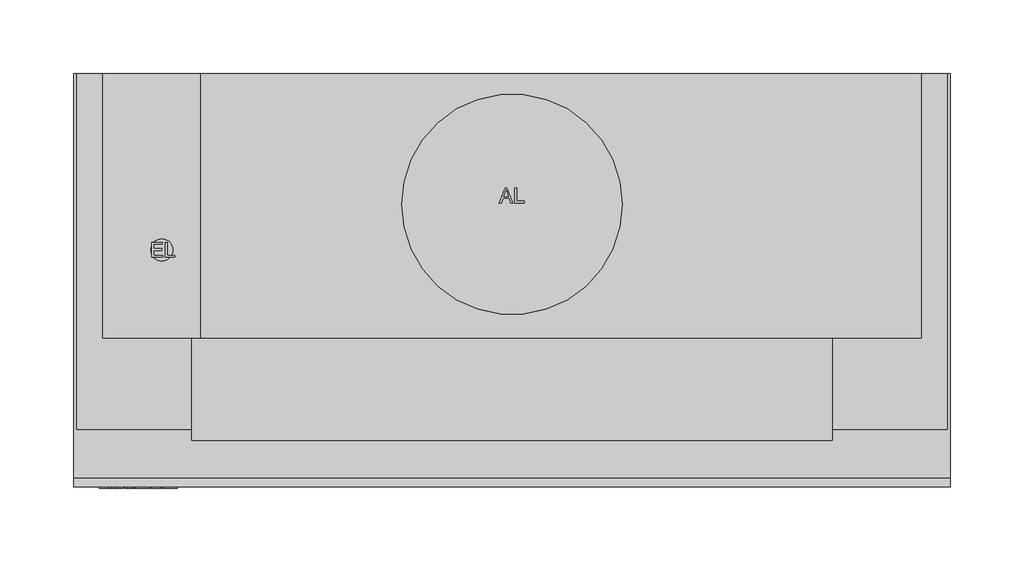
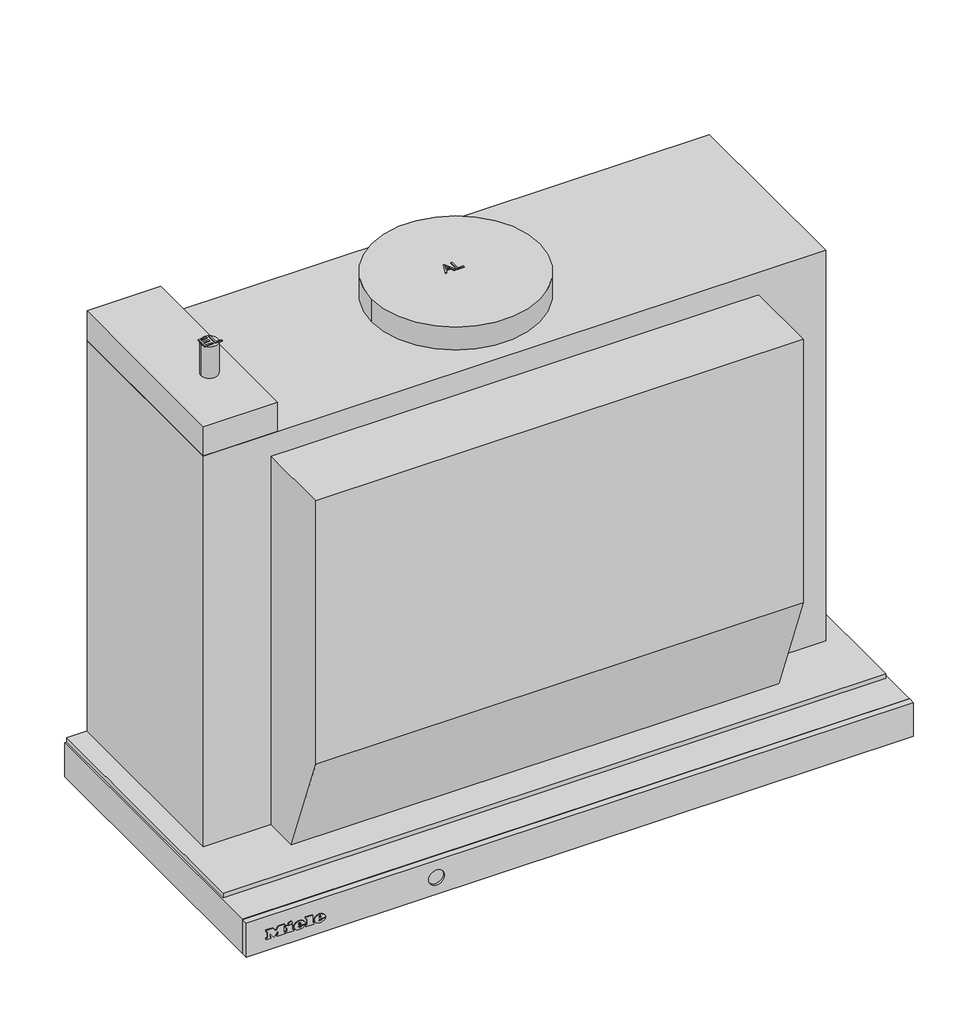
# Not in any storey: 1 proxy.
"""IFC4 building model written with IfcOpenShell, lengths in millimetres."""

import ifcopenshell
import ifcopenshell.guid

model = None  # the IFC model being written
_history = None  # IfcOwnerHistory: only IFC2X3 demands one
_inside = {}  # id of a spatial element -> (the spatial element, [elements in it])
_under = {}  # id of a project, library or spatial element -> (it, [spatial elements below it])
_declared = {}  # id of a project -> (the project, [libraries it declares])
_typed = {}  # id of a type object -> (the type object, [elements of that type])
_made_of = {}  # id of a material, layer set ... -> (it, [elements and type objects made of it])


def new_model(schema):
    """Start an empty IFC model of exactly this schema.

    Asked for "IFC4X3", IfcOpenShell would pick the latest addendum, in which some entities
    have other attributes; the version numbers below select the first issue.
    IFC2X3 requires an IfcOwnerHistory on every rooted entity: one is made here for all.
    """
    global model, _history
    if schema == "IFC4X3":
        model = ifcopenshell.file(schema_version=(4, 3, 0, 0))
    else:
        model = ifcopenshell.file(schema=schema)
    _inside.clear()
    _under.clear()
    _declared.clear()
    _typed.clear()
    _made_of.clear()
    _history = None
    if model.schema == "IFC2X3":
        org = make("IfcOrganization", Name="unknown")
        user = make(
            "IfcPersonAndOrganization",
            ThePerson=make("IfcPerson", FamilyName="unknown"),
            TheOrganization=org,
        )
        app = make(
            "IfcApplication",
            ApplicationDeveloper=org,
            Version="unknown",
            ApplicationFullName="unknown",
            ApplicationIdentifier="unknown",
        )
        _history = make(
            "IfcOwnerHistory",
            OwningUser=user,
            OwningApplication=app,
            ChangeAction="ADDED",
            CreationDate=0,
        )
    return model


def make(cls, **values):
    """One entity of the class cls with the attributes given. An attribute that is None is left unset."""
    return model.create_entity(
        cls, **{name: value for name, value in values.items() if value is not None}
    )


def rooted(cls, **values):
    """An entity with a GlobalId (a new one), such as an element, a storey or a relation."""
    return make(cls, GlobalId=ifcopenshell.guid.new(), OwnerHistory=_history, **values)


def si_unit(unit_type, name, prefix=None):
    """IfcSIUnit, for example si_unit("LENGTHUNIT", "METRE", prefix="MILLI")."""
    return make("IfcSIUnit", UnitType=unit_type, Prefix=prefix, Name=name)


def assignment(units):
    """IfcUnitAssignment: the units of a project."""
    return None if units is None else make("IfcUnitAssignment", Units=units)


def point(xyz):
    """IfcCartesianPoint."""
    return None if xyz is None else make("IfcCartesianPoint", Coordinates=xyz)


def direction(xyz):
    """IfcDirection."""
    return None if xyz is None else make("IfcDirection", DirectionRatios=xyz)


def frame(location, z_axis=None, x_axis=None):
    """IfcAxis2Placement3D, a coordinate frame: its origin and axes. An axis left out is left unset."""
    return make(
        "IfcAxis2Placement3D",
        Location=point(location),
        Axis=direction(z_axis),
        RefDirection=direction(x_axis),
    )


def frame_2d(location, x_axis=None):
    """IfcAxis2Placement2D, a coordinate frame in the plane: its origin and x axis."""
    return make(
        "IfcAxis2Placement2D", Location=point(location), RefDirection=direction(x_axis)
    )


def origin():
    """The frame at (0, 0, 0) with its axes left unset."""
    return frame((0.0, 0.0, 0.0))


def origin_with_axes():
    """The frame at (0, 0, 0) with the z axis (0, 0, 1) and the x axis (1, 0, 0) written out."""
    return frame((0.0, 0.0, 0.0), z_axis=(0.0, 0.0, 1.0), x_axis=(1.0, 0.0, 0.0))


def place(relative_to, where):
    """IfcLocalPlacement: puts the frame where relative to a parent placement (None: the world)."""
    return make(
        "IfcLocalPlacement", PlacementRelTo=relative_to, RelativePlacement=where
    )


def context(
    kind, dimensions, precision=None, world=None, true_north=None, identifier=None
):
    """IfcGeometricRepresentationContext, for example the 3D "Model" context."""
    return make(
        "IfcGeometricRepresentationContext",
        ContextIdentifier=identifier,
        ContextType=kind,
        CoordinateSpaceDimension=dimensions,
        Precision=precision,
        WorldCoordinateSystem=world,
        TrueNorth=true_north,
    )


def project(units=None, contexts=None):
    """IfcProject with its units and contexts."""
    return rooted(
        "IfcProject",
        Name="project",
        RepresentationContexts=contexts,
        UnitsInContext=assignment(units),
    )


def spatial(cls, under=None, at=None, **own):
    """A site, building, storey or space (cls), placed at a placement, below another one or the project."""
    s = rooted(cls, ObjectPlacement=at, **own)
    if under is not None:
        _under.setdefault(under.id(), (under, []))[1].append(s)
    return s


def polyline(points):
    """IfcPolyline through the points."""
    return make("IfcPolyline", Points=[point(p) for p in points])


def circle_curve(where, radius):
    """IfcCircle in the frame where."""
    return make("IfcCircle", Position=where, Radius=radius)


def ellipse_curve(where, semi_axis1, semi_axis2):
    """IfcEllipse in the frame where."""
    return make(
        "IfcEllipse", Position=where, SemiAxis1=semi_axis1, SemiAxis2=semi_axis2
    )


def trimmed(basis, trim1, trim2, sense, master):
    """IfcTrimmedCurve: the piece of a basis curve between two trims."""
    return make(
        "IfcTrimmedCurve",
        BasisCurve=basis,
        Trim1=trim1,
        Trim2=trim2,
        SenseAgreement=sense,
        MasterRepresentation=master,
    )


def segment(curve, same_sense, transition):
    """IfcCompositeCurveSegment."""
    return make(
        "IfcCompositeCurveSegment",
        Transition=transition,
        SameSense=same_sense,
        ParentCurve=curve,
    )


def composite_curve(segments, self_intersect=None):
    """IfcCompositeCurve: segments joined end to end."""
    return make("IfcCompositeCurve", Segments=segments, SelfIntersect=self_intersect)


def outline(outer, holes=None, kind="AREA"):
    """IfcArbitraryClosedProfileDef: a profile drawn as a closed curve; with holes, ...WithVoids."""
    if holes is None:
        return make("IfcArbitraryClosedProfileDef", ProfileType=kind, OuterCurve=outer)
    return make(
        "IfcArbitraryProfileDefWithVoids",
        ProfileType=kind,
        OuterCurve=outer,
        InnerCurves=holes,
    )


def extrude(swept, where, along, depth):
    """IfcExtrudedAreaSolid: the profile swept, set in the frame where, extruded along a direction by depth."""
    return make(
        "IfcExtrudedAreaSolid",
        SweptArea=swept,
        Position=where,
        ExtrudedDirection=direction(along),
        Depth=depth,
    )


def faces_of(points, faces, orient=None, outer=None):
    """IfcFace entities. A face is a list of loops; a loop is a list of indices into points, from 0.

    orient and outer hold one flag for each loop. By default every Orientation is true, the
    first loop of a face is its IfcFaceOuterBound and the others are IfcFaceBound.
    """
    made = []
    for i, loops in enumerate(faces):
        bounds = []
        for j, loop in enumerate(loops):
            is_outer = j == 0 if outer is None else outer[i][j]
            bounds.append(
                make(
                    "IfcFaceOuterBound" if is_outer else "IfcFaceBound",
                    Bound=make("IfcPolyLoop", Polygon=[points[k] for k in loop]),
                    Orientation=True if orient is None else orient[i][j],
                )
            )
        made.append(make("IfcFace", Bounds=bounds))
    return made


def faceted_brep(points, faces, orient=None, outer=None, voids=None):
    """IfcFacetedBrep: a solid bounded by flat faces; with voids (closed shells), ...WithVoids."""
    shared = [point(p) for p in points]
    hull = make("IfcClosedShell", CfsFaces=faces_of(shared, faces, orient, outer))
    if voids is None:
        return make("IfcFacetedBrep", Outer=hull)
    return make(
        "IfcFacetedBrepWithVoids",
        Outer=hull,
        Voids=[
            make(cls, CfsFaces=faces_of(shared, fs, o, b)) for cls, fs, o, b in voids
        ],
    )


def shape(context_of_items, identifier, shape_type, items):
    """IfcShapeRepresentation: the items that make up one representation, for example the "Body"."""
    return make(
        "IfcShapeRepresentation",
        ContextOfItems=context_of_items,
        RepresentationIdentifier=identifier,
        RepresentationType=shape_type,
        Items=items,
    )


def source(mapping_origin, context_of_items, identifier, shape_type, items):
    """IfcRepresentationMap: a shape defined once, which mapped items show again and again."""
    return make(
        "IfcRepresentationMap",
        MappingOrigin=mapping_origin,
        MappedRepresentation=shape(context_of_items, identifier, shape_type, items),
    )


def transform(
    local_origin,
    x_axis=None,
    y_axis=None,
    z_axis=None,
    scale=None,
    scale2=None,
    scale3=None,
    uniform=True,
):
    """IfcCartesianTransformationOperator3D, or its non-uniform kind. x_axis, y_axis, z_axis: its Axis1, 2, 3."""
    if uniform:
        return make(
            "IfcCartesianTransformationOperator3D",
            Axis1=direction(x_axis),
            Axis2=direction(y_axis),
            LocalOrigin=point(local_origin),
            Scale=scale,
            Axis3=direction(z_axis),
        )
    return make(
        "IfcCartesianTransformationOperator3DnonUniform",
        Axis1=direction(x_axis),
        Axis2=direction(y_axis),
        LocalOrigin=point(local_origin),
        Scale=scale,
        Axis3=direction(z_axis),
        Scale2=scale2,
        Scale3=scale3,
    )


def mapped(mapping_source, mapping_target):
    """IfcMappedItem: shows the shape of a source again, moved by a transform."""
    return make(
        "IfcMappedItem", MappingSource=mapping_source, MappingTarget=mapping_target
    )


def made_of(thing, what):
    """Note that an element or type object is made of a material, layer set ...; save() writes the relation."""
    if what is not None:
        _made_of.setdefault(what.id(), (what, []))[1].append(thing)
    return thing


def element(
    cls,
    number,
    at=None,
    inside=None,
    cuts=None,
    type_object=None,
    material=None,
    context=None,
    identifier="Body",
    shape_type=None,
    held_by="IfcProductDefinitionShape",
    body=None,
    shapes=None,
    **own,
):
    """One element of the class cls, such as IfcWall. Its Tag is "e" and its number.

    at: its placement. inside: the storey or other place that contains it. cuts: it is an
    opening in that element (IfcRelVoidsElement). A single representation is given by context,
    identifier, shape_type and body (its items); several are given by shapes. held_by: the class
    of the entity that holds the representations. save() writes the other relations.
    """
    e = rooted(cls, Tag="e%d" % number, ObjectPlacement=at, **own)
    if body is not None:
        shapes = [shape(context, identifier, shape_type, body)]
    if shapes is not None:
        e.Representation = make(held_by, Representations=shapes)
    if inside is not None:
        _inside.setdefault(inside.id(), (inside, []))[1].append(e)
    if cuts is not None:
        rooted(
            "IfcRelVoidsElement", RelatingBuildingElement=cuts, RelatedOpeningElement=e
        )
    if type_object is not None:
        _typed.setdefault(type_object.id(), (type_object, []))[1].append(e)
    return made_of(e, material)


def aggregate(whole, parts):
    """IfcRelAggregates: a whole, such as a stair, and the parts it consists of."""
    return rooted("IfcRelAggregates", RelatingObject=whole, RelatedObjects=parts)


def save(model, path):
    """Write the relations noted so far, then the file.

    IfcRelAggregates (storeys below a building ...), IfcRelContainedInSpatialStructure (elements
    in a storey), IfcRelDefinesByType, IfcRelAssociatesMaterial and IfcRelDeclares: one each for
    every whole, place, type object, material and project.
    """
    for whole, parts in _under.values():
        aggregate(whole, parts)
    for where, things in _inside.values():
        rooted(
            "IfcRelContainedInSpatialStructure",
            RelatedElements=things,
            RelatingStructure=where,
        )
    for kind, things in _typed.values():
        rooted("IfcRelDefinesByType", RelatedObjects=things, RelatingType=kind)
    for what, things in _made_of.values():
        rooted("IfcRelAssociatesMaterial", RelatedObjects=things, RelatingMaterial=what)
    for by, libraries in _declared.values():
        rooted("IfcRelDeclares", RelatingContext=by, RelatedDefinitions=libraries)
    model.write(path)


def plane_surface(at):
    """IfcPlane: the flat surface through the origin of the frame at, square to its z axis."""
    return make("IfcPlane", Position=at)


def cylinder_surface(at, radius):
    """IfcCylindricalSurface: all points at the distance radius from the z axis of the frame at."""
    return make("IfcCylindricalSurface", Position=at, Radius=radius)


def revolved_surface(curve, axis_point, axis_direction):
    """IfcSurfaceOfRevolution: the curve turned about the line through axis_point along axis_direction."""
    return make(
        "IfcSurfaceOfRevolution",
        SweptCurve=make("IfcArbitraryOpenProfileDef", ProfileType="CURVE", Curve=curve),
        AxisPosition=make("IfcAxis1Placement", Location=point(axis_point), Axis=direction(axis_direction)),
    )


def extruded_surface(curve, direction_of_extrusion, depth):
    """IfcSurfaceOfLinearExtrusion: the curve pushed along a direction by depth."""
    return make(
        "IfcSurfaceOfLinearExtrusion",
        SweptCurve=make("IfcArbitraryOpenProfileDef", ProfileType="CURVE", Curve=curve),
        ExtrudedDirection=direction(direction_of_extrusion),
        Depth=depth,
    )


def advanced_brep(points, edges, surfaces, faces):
    """IfcAdvancedBrep: a solid bounded by faces that lie on surfaces and meet in shared edges.

    An edge is (start, end): straight between two places in points (the first is 0);
    or (start, end, curve); or (start, end, curve, False) where it runs against its curve.
    A face is (place in surfaces, loops), or (place, loops, False) where it looks against
    its surface's normal. A loop lists edges by number (the first is 1), with a minus sign
    where the edge is run from its end to its start. The first loop is the outer one.
    """
    corners = [point(p) for p in points]
    vertices = [make("IfcVertexPoint", VertexGeometry=c) for c in corners]
    made = []
    for start, end, *more in edges:
        made.append(
            make(
                "IfcEdgeCurve",
                EdgeStart=vertices[start],
                EdgeEnd=vertices[end],
                EdgeGeometry=more[0] if more else make("IfcPolyline", Points=[corners[start], corners[end]]),
                SameSense=more[1] if len(more) > 1 else True,
            )
        )
    hull = []
    for where, loops, *sense in faces:
        bounds = []
        for j, loop in enumerate(loops):
            ring = [make("IfcOrientedEdge", EdgeElement=made[abs(k) - 1], Orientation=k > 0) for k in loop]
            bounds.append(
                make(
                    "IfcFaceOuterBound" if j == 0 else "IfcFaceBound",
                    Bound=make("IfcEdgeLoop", EdgeList=ring),
                    Orientation=True,
                )
            )
        hull.append(make("IfcAdvancedFace", Bounds=bounds, FaceSurface=surfaces[where], SameSense=sense[0] if sense else True))
    return make("IfcAdvancedBrep", Outer=make("IfcClosedShell", CfsFaces=hull))


def specialty_equipment_1e5db910(model_context):
    return source(origin(), model_context, "Body", "SolidModel", [
        advanced_brep(
        [(-233.4590019, -282.1878927, -18.7681017), (-233.4590019, -282.1878927, -17.8894017), (-227.6387019, -282.1878927, -17.8894017), (-237.7655019, -282.1878927, -17.8894017), (-235.3730019, -282.1878927, -20.8300017), (-227.7866019, -282.1878927, -18.7681017), (-230.4140019, -282.1878927, -18.7681017), (-232.4846019, -282.1878927, -19.7425017), (-233.4590019, -282.1878927, -16.7758017), (-233.4590019, -282.1878927, -15.8275017), (-231.9713019, -282.1878927, -15.8275017), (-231.9713019, -282.1878927, -16.7758017), (-233.4590019, -281.1878927, -18.7681017), (-232.4846019, -281.1878927, -19.7425017), (-230.4140019, -281.1878927, -18.7681017), (-227.7866019, -281.1878927, -18.7681017), (-235.3730019, -281.1878927, -20.8300017), (-237.7655019, -281.1878927, -17.8894017), (-227.6387019, -281.1878927, -17.8894017), (-233.4590019, -281.1878927, -17.8894017), (-233.4590019, -281.1878927, -16.7758017), (-231.9713019, -281.1878927, -16.7758017), (-231.9713019, -281.1878927, -15.8275017), (-233.4590019, -281.1878927, -15.8275017)],
        [
            (0, 1),
            (1, 2),
            (2, 3, ellipse_curve(frame((-232.7021019, -282.1878927, -17.8894017), z_axis=(0.0, -1.0, 0.0), x_axis=(-1.0, 0.0, 0.0)), 5.0634, 4.1847)),
            (3, 4, circle_curve(frame((-234.3985544, -282.1878927, -17.5936017), z_axis=(0.0, -1.0, 0.0), x_axis=(0.0, 0.0, -1.0)), 3.3799161)),
            (4, 5, circle_curve(frame((-232.8034638, -282.1878927, -15.2968017), z_axis=(0.0, -1.0, 0.0), x_axis=(0.0, 0.0, -1.0)), 6.1007236)),
            (5, 6),
            (6, 7, circle_curve(frame((-232.0593254, -282.1878927, -17.9590017), z_axis=(0.0, 1.0, 0.0), x_axis=(0.0, 0.0, -1.0)), 1.8335027)),
            (7, 0, circle_curve(frame((-232.4846019, -282.1878927, -18.7681017), z_axis=(0.0, 1.0, 0.0), x_axis=(0.0, 0.0, -1.0)), 0.9744)),
            (8, 9),
            (9, 10, circle_curve(frame((-232.7151519, -282.1878927, -15.8275017), z_axis=(0.0, 1.0, 0.0), x_axis=(0.0, 0.0, -1.0)), 0.74385)),
            (10, 11),
            (11, 8),
            (12, 13, circle_curve(frame((-232.4846019, -281.1878927, -18.7681017), z_axis=(0.0, -1.0, 0.0), x_axis=(0.0, 0.0, -1.0)), 0.9744)),
            (13, 14, circle_curve(frame((-232.0593254, -281.1878927, -17.9590017), z_axis=(0.0, -1.0, 0.0), x_axis=(0.0, 0.0, -1.0)), 1.8335027)),
            (14, 15),
            (15, 16, circle_curve(frame((-232.8034638, -281.1878927, -15.2968017), z_axis=(0.0, 1.0, 0.0), x_axis=(0.0, 0.0, -1.0)), 6.1007236)),
            (16, 17, circle_curve(frame((-234.3985544, -281.1878927, -17.5936017), z_axis=(0.0, 1.0, 0.0), x_axis=(0.0, 0.0, -1.0)), 3.3799161)),
            (17, 18, ellipse_curve(frame((-232.7021019, -281.1878927, -17.8894017), z_axis=(0.0, 1.0, 0.0), x_axis=(-1.0, 0.0, 0.0)), 5.0634, 4.1847)),
            (18, 19),
            (19, 12),
            (20, 21),
            (21, 22),
            (22, 23, circle_curve(frame((-232.7151519, -281.1878927, -15.8275017), z_axis=(0.0, -1.0, 0.0), x_axis=(0.0, 0.0, -1.0)), 0.74385)),
            (23, 20),
            (0, 12),
            (19, 1),
            (18, 2),
            (5, 15),
            (14, 6),
            (17, 3),
            (13, 7),
            (16, 4),
            (8, 20),
            (23, 9),
            (22, 10),
            (21, 11),
        ],
        [
            plane_surface(frame((-233.4590019, -282.1878927, -17.8894017), z_axis=(0.0, -1.0, 0.0), x_axis=(0.0, 0.0, 1.0))),
            plane_surface(frame((-233.4590019, -281.1878927, -17.8894017), z_axis=(0.0, 1.0, 0.0), x_axis=(0.0, 0.0, -1.0))),
            plane_surface(frame((-233.4590019, -282.1878927, -18.7681017), z_axis=(1.0, 0.0, 0.0), x_axis=(0.0, 1.0, 0.0))),
            plane_surface(frame((-233.4590019, -282.1878927, -17.8894017), z_axis=(0.0, 0.0, -1.0), x_axis=(0.0, 1.0, 0.0))),
            plane_surface(frame((-227.7866019, -282.1878927, -18.7681017), z_axis=(0.0, 0.0, 1.0), x_axis=(0.0, 1.0, 0.0))),
            extruded_surface(trimmed(ellipse_curve(frame((-232.7021019, -280.1878927, -17.8894017), z_axis=(0.0, -1.0, 0.0), x_axis=(-1.0, 0.0, 0.0)), 5.0634, 4.1847), [point((-227.6387019, -280.1878927, -17.8894017))], [point((-237.7655019, -280.1878927, -17.8894017))], True, "CARTESIAN"), (0.0, -1.0, 0.0), 1.0),
            revolved_surface(polyline([(-232.0593254, -281.1878927, -19.792504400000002), (-232.0593254, -282.1878927, -19.792504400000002)]), (-232.0593254, -281.1878927, -17.9590017), (0.0, 1.0, 0.0)),
            revolved_surface(polyline([(-232.4846019, -281.1878927, -19.7425017), (-232.4846019, -282.1878927, -19.7425017)]), (-232.4846019, -281.1878927, -18.7681017), (0.0, 1.0, 0.0)),
            cylinder_surface(frame((-234.3985544, -281.1878927, -17.5936017), z_axis=(0.0, -1.0, 0.0), x_axis=(0.0, 0.0, -1.0)), 3.3799161),
            cylinder_surface(frame((-232.8034638, -281.1878927, -15.2968017), z_axis=(0.0, -1.0, 0.0), x_axis=(0.0, 0.0, -1.0)), 6.1007236),
            plane_surface(frame((-233.4590019, -282.1878927, -16.7758017), z_axis=(1.0, 0.0, 0.0), x_axis=(0.0, 1.0, 0.0))),
            revolved_surface(polyline([(-232.7151519, -281.1878927, -16.571351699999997), (-232.7151519, -282.1878927, -16.571351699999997)]), (-232.7151519, -281.1878927, -15.8275017), (0.0, 1.0, 0.0)),
            plane_surface(frame((-231.9713019, -282.1878927, -15.8275017), z_axis=(-1.0, 0.0, 0.0), x_axis=(0.0, 1.0, 0.0))),
            plane_surface(frame((-231.9713019, -282.1878927, -16.7758017), z_axis=(0.0, 0.0, 1.0), x_axis=(0.0, 1.0, 0.0))),
        ],
        [
            (0, [[1, 2, 3, 4, 5, 6, 7, 8], [9, 10, 11, 12]]),
            (1, [[13, 14, 15, 16, 17, 18, 19, 20], [21, 22, 23, 24]]),
            (2, [[-1, 25, -20, 26]]),
            (3, [[-2, -26, -19, 27]]),
            (4, [[-6, 28, -15, 29]]),
            (5, [[-3, -27, -18, 30]]),
            (6, [[-7, -29, -14, 31]]),
            (7, [[-8, -31, -13, -25]]),
            (8, [[-4, -30, -17, 32]]),
            (9, [[-5, -32, -16, -28]]),
            (10, [[-9, 33, -24, 34]]),
            (11, [[-10, -34, -23, 35]]),
            (12, [[-11, -35, -22, 36]]),
            (13, [[-12, -36, -21, -33]]),
        ],
    ),
        advanced_brep(
        [(-251.6159019, -282.1878927, -18.7681017), (-251.6159019, -282.1878927, -17.8894017), (-245.7956019, -282.1878927, -17.8894017), (-255.9224019, -282.1878927, -17.8894017), (-253.5299019, -282.1878927, -20.8300017), (-245.9435019, -282.1878927, -18.7681017), (-248.5709019, -282.1878927, -18.7681017), (-250.6415019, -282.1878927, -19.7425017), (-251.6159019, -282.1878927, -16.7758017), (-251.6159019, -282.1878927, -15.8275017), (-250.1282019, -282.1878927, -15.8275017), (-250.1282019, -282.1878927, -16.7758017), (-251.6159019, -281.1878927, -18.7681017), (-250.6415019, -281.1878927, -19.7425017), (-248.5709019, -281.1878927, -18.7681017), (-245.9435019, -281.1878927, -18.7681017), (-253.5299019, -281.1878927, -20.8300017), (-255.9224019, -281.1878927, -17.8894017), (-245.7956019, -281.1878927, -17.8894017), (-251.6159019, -281.1878927, -17.8894017), (-251.6159019, -281.1878927, -16.7758017), (-250.1282019, -281.1878927, -16.7758017), (-250.1282019, -281.1878927, -15.8275017), (-251.6159019, -281.1878927, -15.8275017)],
        [
            (0, 1),
            (1, 2),
            (2, 3, ellipse_curve(frame((-250.8590019, -282.1878927, -17.8894017), z_axis=(0.0, -1.0, 0.0), x_axis=(-1.0, 0.0, 0.0)), 5.0634, 4.1847)),
            (3, 4, circle_curve(frame((-252.5554544, -282.1878927, -17.5936017), z_axis=(0.0, -1.0, 0.0), x_axis=(0.0, 0.0, -1.0)), 3.3799161)),
            (4, 5, circle_curve(frame((-250.9603638, -282.1878927, -15.2968017), z_axis=(0.0, -1.0, 0.0), x_axis=(0.0, 0.0, -1.0)), 6.1007236)),
            (5, 6),
            (6, 7, circle_curve(frame((-250.2162254, -282.1878927, -17.9590017), z_axis=(0.0, 1.0, 0.0), x_axis=(0.0, 0.0, -1.0)), 1.8335027)),
            (7, 0, circle_curve(frame((-250.6415019, -282.1878927, -18.7681017), z_axis=(0.0, 1.0, 0.0), x_axis=(0.0, 0.0, -1.0)), 0.9744)),
            (8, 9),
            (9, 10, circle_curve(frame((-250.8720519, -282.1878927, -15.8275017), z_axis=(0.0, 1.0, 0.0), x_axis=(0.0, 0.0, -1.0)), 0.74385)),
            (10, 11),
            (11, 8),
            (12, 13, circle_curve(frame((-250.6415019, -281.1878927, -18.7681017), z_axis=(0.0, -1.0, 0.0), x_axis=(0.0, 0.0, -1.0)), 0.9744)),
            (13, 14, circle_curve(frame((-250.2162254, -281.1878927, -17.9590017), z_axis=(0.0, -1.0, 0.0), x_axis=(0.0, 0.0, -1.0)), 1.8335027)),
            (14, 15),
            (15, 16, circle_curve(frame((-250.9603638, -281.1878927, -15.2968017), z_axis=(0.0, 1.0, 0.0), x_axis=(0.0, 0.0, -1.0)), 6.1007236)),
            (16, 17, circle_curve(frame((-252.5554544, -281.1878927, -17.5936017), z_axis=(0.0, 1.0, 0.0), x_axis=(0.0, 0.0, -1.0)), 3.3799161)),
            (17, 18, ellipse_curve(frame((-250.8590019, -281.1878927, -17.8894017), z_axis=(0.0, 1.0, 0.0), x_axis=(-1.0, 0.0, 0.0)), 5.0634, 4.1847)),
            (18, 19),
            (19, 12),
            (20, 21),
            (21, 22),
            (22, 23, circle_curve(frame((-250.8720519, -281.1878927, -15.8275017), z_axis=(0.0, -1.0, 0.0), x_axis=(0.0, 0.0, -1.0)), 0.74385)),
            (23, 20),
            (0, 12),
            (19, 1),
            (18, 2),
            (5, 15),
            (14, 6),
            (17, 3),
            (13, 7),
            (16, 4),
            (8, 20),
            (23, 9),
            (22, 10),
            (21, 11),
        ],
        [
            plane_surface(frame((-251.6159019, -282.1878927, -17.8894017), z_axis=(0.0, -1.0, 0.0), x_axis=(0.0, 0.0, 1.0))),
            plane_surface(frame((-251.6159019, -281.1878927, -17.8894017), z_axis=(0.0, 1.0, 0.0), x_axis=(0.0, 0.0, -1.0))),
            plane_surface(frame((-251.6159019, -282.1878927, -18.7681017), z_axis=(1.0, 0.0, 0.0), x_axis=(0.0, 1.0, 0.0))),
            plane_surface(frame((-251.6159019, -282.1878927, -17.8894017), z_axis=(0.0, 0.0, -1.0), x_axis=(0.0, 1.0, 0.0))),
            plane_surface(frame((-245.9435019, -282.1878927, -18.7681017), z_axis=(0.0, 0.0, 1.0), x_axis=(0.0, 1.0, 0.0))),
            extruded_surface(trimmed(ellipse_curve(frame((-250.8590019, -280.1878927, -17.8894017), z_axis=(0.0, -1.0, 0.0), x_axis=(-1.0, 0.0, 0.0)), 5.0634, 4.1847), [point((-245.7956019, -280.1878927, -17.8894017))], [point((-255.9224019, -280.1878927, -17.8894017))], True, "CARTESIAN"), (0.0, -1.0, 0.0), 1.0),
            revolved_surface(polyline([(-250.2162254, -281.1878927, -19.792504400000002), (-250.2162254, -282.1878927, -19.792504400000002)]), (-250.2162254, -281.1878927, -17.9590017), (0.0, 1.0, 0.0)),
            revolved_surface(polyline([(-250.6415019, -281.1878927, -19.7425017), (-250.6415019, -282.1878927, -19.7425017)]), (-250.6415019, -281.1878927, -18.7681017), (0.0, 1.0, 0.0)),
            cylinder_surface(frame((-252.5554544, -281.1878927, -17.5936017), z_axis=(0.0, -1.0, 0.0), x_axis=(0.0, 0.0, -1.0)), 3.3799161),
            cylinder_surface(frame((-250.9603638, -281.1878927, -15.2968017), z_axis=(0.0, -1.0, 0.0), x_axis=(0.0, 0.0, -1.0)), 6.1007236),
            plane_surface(frame((-251.6159019, -282.1878927, -16.7758017), z_axis=(1.0, 0.0, 0.0), x_axis=(0.0, 1.0, 0.0))),
            revolved_surface(polyline([(-250.8720519, -281.1878927, -16.571351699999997), (-250.8720519, -282.1878927, -16.571351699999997)]), (-250.8720519, -281.1878927, -15.8275017), (0.0, 1.0, 0.0)),
            plane_surface(frame((-250.1282019, -282.1878927, -15.8275017), z_axis=(-1.0, 0.0, 0.0), x_axis=(0.0, 1.0, 0.0))),
            plane_surface(frame((-250.1282019, -282.1878927, -16.7758017), z_axis=(0.0, 0.0, 1.0), x_axis=(0.0, 1.0, 0.0))),
        ],
        [
            (0, [[1, 2, 3, 4, 5, 6, 7, 8], [9, 10, 11, 12]]),
            (1, [[13, 14, 15, 16, 17, 18, 19, 20], [21, 22, 23, 24]]),
            (2, [[-1, 25, -20, 26]]),
            (3, [[-2, -26, -19, 27]]),
            (4, [[-6, 28, -15, 29]]),
            (5, [[-3, -27, -18, 30]]),
            (6, [[-7, -29, -14, 31]]),
            (7, [[-8, -31, -13, -25]]),
            (8, [[-4, -30, -17, 32]]),
            (9, [[-5, -32, -16, -28]]),
            (10, [[-9, 33, -24, 34]]),
            (11, [[-10, -34, -23, 35]]),
            (12, [[-11, -35, -22, 36]]),
            (13, [[-12, -36, -21, -33]]),
        ],
    ),
        extrude(outline(polyline([(-12.6433017, -261.1250019), (-14.0527017, -260.4638019), (-12.6781017, -257.5145019), (-11.2687017, -258.1670019), (-12.6433017, -261.1250019)])), frame((0.0, -282.1878927, 0.0), z_axis=(0.0, 1.0, 0.0), x_axis=(0.0, 0.0, 1.0)), (0.0, 0.0, 1.0), 1.0),
        extrude(outline(polyline([(-14.2441017, -263.2739019), (-15.8014017, -263.2739019), (-15.8014017, -262.2386019), (-19.3684017, -262.2386019), (-19.3684017, -263.2739019), (-20.8300017, -263.2739019), (-20.8300017, -256.4096019), (-19.3684017, -256.4096019), (-19.3684017, -257.4188019), (-14.2441017, -257.4188019), (-14.2441017, -263.2739019)])), frame((0.0, -282.1878927, 0.0), z_axis=(0.0, 1.0, 0.0), x_axis=(0.0, 0.0, 1.0)), (0.0, 0.0, 1.0), 1.0),
        extrude(outline(polyline([(-13.5481017, -245.3084019), (-13.5481017, -244.2644019), (-19.3684017, -244.2644019), (-19.3684017, -245.3084019), (-20.8300017, -245.3084019), (-20.8300017, -238.2527019), (-19.3684017, -238.2527019), (-19.3684017, -239.3228019), (-12.1300017, -239.3228019), (-12.1300017, -245.3084019), (-13.5481017, -245.3084019)])), frame((0.0, -282.1878927, 0.0), z_axis=(0.0, 1.0, 0.0), x_axis=(0.0, 0.0, 1.0)), (0.0, 0.0, 1.0), 1.0),
        extrude(outline(polyline([(-13.5481017, -280.6130019), (-13.5481017, -279.5603019), (-19.3684017, -279.5603019), (-19.3684017, -280.6130019), (-20.8300017, -280.6130019), (-20.8300017, -276.7850019), (-19.3684017, -276.7850019), (-19.3684017, -277.8290019), (-15.6719769, -277.8290019), (-20.8300017, -273.9401019), (-15.5772794, -270.0338019), (-19.3684017, -270.0338019), (-19.3684017, -271.1039019), (-20.8300017, -271.1039019), (-20.8300017, -264.1613019), (-19.3684017, -264.1613019), (-19.3684017, -265.2662019), (-13.5481017, -265.2662019), (-13.5481017, -264.1613019), (-12.1300017, -264.1613019), (-12.1300017, -269.4596019), (-15.3925017, -272.0000019), (-12.1300017, -274.5491019), (-12.1300017, -280.6130019), (-13.5481017, -280.6130019)])), frame((0.0, -282.1878927, 0.0), z_axis=(0.0, 1.0, 0.0), x_axis=(0.0, 0.0, 1.0)), (0.0, 0.0, 1.0), 1.0),
        advanced_brep(
        [(-298.0, -281.1878927, 0.0), (-298.0, -281.1878927, -32.0), (298.0, -281.1878927, -32.0), (298.0, -281.1878927, 0.0), (-120.989338, -281.1878927, -16.0), (-135.010662, -281.1878927, -16.0), (-298.0, -275.4770358, 0.0), (298.0, -275.4770358, 0.0), (298.0, -275.4770358, -32.0), (-298.0, -275.4770358, -32.0), (-135.010662, -279.3472208, -16.0), (-120.989338, -279.3472208, -16.0)],
        [
            (0, 1),
            (1, 2),
            (2, 3),
            (3, 0),
            (4, 5, circle_curve(frame((-128.0, -281.1878927, -16.0), z_axis=(0.0, 1.0, 0.0), x_axis=(1.0, 0.0, 0.0)), 7.010662)),
            (5, 4, circle_curve(frame((-128.0, -281.1878927, -16.0), z_axis=(0.0, 1.0, 0.0), x_axis=(1.0, 0.0, 0.0)), 7.010662)),
            (6, 7),
            (7, 8),
            (8, 9),
            (9, 6),
            (3, 7),
            (6, 0),
            (2, 8),
            (1, 9),
            (10, 11, circle_curve(frame((-128.0, -279.3472208, -16.0), z_axis=(0.0, -1.0, 0.0), x_axis=(1.0, 0.0, 0.0)), 7.010662)),
            (11, 10, circle_curve(frame((-128.0, -279.3472208, -16.0), z_axis=(0.0, -1.0, 0.0), x_axis=(1.0, 0.0, 0.0)), 7.010662)),
            (10, 5),
            (4, 11),
        ],
        [
            plane_surface(frame((-298.0, -281.1878927, 0.0), z_axis=(0.0, -1.0, 0.0), x_axis=(0.0, 0.0, -1.0))),
            plane_surface(frame((-298.0, -275.4770358, 0.0), z_axis=(0.0, 1.0, 0.0), x_axis=(0.0, 0.0, 1.0))),
            plane_surface(frame((298.0, -281.1878927, 0.0), z_axis=(0.0, 0.0, 1.0), x_axis=(0.0, 1.0, 0.0))),
            plane_surface(frame((298.0, -281.1878927, -32.0), z_axis=(1.0, 0.0, 0.0), x_axis=(0.0, 1.0, 0.0))),
            plane_surface(frame((-298.0, -281.1878927, -32.0), z_axis=(0.0, 0.0, -1.0), x_axis=(0.0, 1.0, 0.0))),
            plane_surface(frame((-298.0, -281.1878927, 0.0), z_axis=(-1.0, 0.0, 0.0), x_axis=(0.0, 1.0, 0.0))),
            plane_surface(frame((-120.989338, -279.3472208, -16.0), z_axis=(0.0, -1.0, 0.0), x_axis=(0.0, 0.0, -1.0))),
            revolved_surface(polyline([(-120.989338, -281.1878927, -16.0), (-120.989338, -279.3472208, -16.0)]), (-128.0, -279.3472208, -16.0), (0.0, -1.0, 0.0)),
        ],
        [
            (0, [[1, 2, 3, 4], [5, 6]]),
            (1, [[7, 8, 9, 10]]),
            (2, [[-4, 11, -7, 12]]),
            (3, [[-3, 13, -8, -11]]),
            (4, [[-2, 14, -9, -13]]),
            (5, [[-1, -12, -10, -14]]),
            (6, [[15, 16]]),
            (7, [[-15, 17, -5, 18]]),
            (7, [[-16, -18, -6, -17]]),
        ],
    ),
        extrude(outline(polyline([(278.0, -180.0), (-278.0, -180.0), (-278.0, 0.0), (278.0, 0.0), (278.0, -180.0)])), frame((0.0, 0.0, 4.0), z_axis=(0.0, 0.0, 1.0), x_axis=(1.0, 0.0, 0.0)), (0.0, 0.0, 1.0), 369.0),
        extrude(outline(composite_curve([segment(trimmed(circle_curve(frame_2d((0.0, -89.0)), 75.0), [point((-75.0, -89.0))], [point((75.0, -89.0))], False, "CARTESIAN"), True, "CONTINUOUS"), segment(trimmed(circle_curve(frame_2d((0.0, -89.0)), 75.0), [point((75.0, -89.0))], [point((-75.0, -89.0))], False, "CARTESIAN"), True, "CONTINUOUS")], self_intersect=False)), frame((0.0, 0.0, 373.0), z_axis=(0.0, 0.0, 1.0), x_axis=(1.0, 0.0, 0.0)), (0.0, 0.0, 1.0), 22.0),
        extrude(outline(polyline([(-278.0, -180.0), (-278.0, 0.0), (-212.0, 0.0), (-212.0, -180.0), (-278.0, -180.0)])), frame((0.0, 0.0, 373.0), z_axis=(0.0, 0.0, 1.0), x_axis=(1.0, 0.0, 0.0)), (0.0, 0.0, 1.0), 28.0),
        extrude(outline(polyline([(-180.0, 352.0), (-180.0, 4.0), (-211.7966838, 4.0), (-249.5, 103.2192532), (-249.5, 352.0), (-180.0, 352.0)])), frame((-217.7156244, 0.0, 0.0), z_axis=(1.0, 0.0, 0.0), x_axis=(0.0, 1.0, 0.0)), (0.0, 0.0, 1.0), 435.4312488),
        extrude(outline(polyline([(-8.5446725, -87.975609), (-4.5347587, -77.929978), (-3.4654484, -77.929978), (0.5420128, -87.975609), (-0.7848149, -87.975609), (-1.9326067, -84.8363493), (-6.0725055, -84.8363493), (-7.2202973, -87.975609), (-8.5446725, -87.975609)]), holes=[polyline([(-5.6114267, -83.5806455), (-2.391233, -83.5806455), (-3.2986752, -81.110931), (-4.0025561, -79.1856819), (-4.6279555, -80.8951069), (-5.6114267, -83.5806455)])]), frame((0.0, 0.0, 395.0), z_axis=(0.0, 0.0, 1.0), x_axis=(1.0, 0.0, 0.0)), (0.0, 0.0, 1.0), 1.0),
        extrude(outline(polyline([(1.8835558, -87.975609), (1.8835558, -77.929978), (3.1392597, -77.929978), (3.1392597, -86.7199052), (8.1620752, -86.7199052), (8.1620752, -87.975609), (1.8835558, -87.975609)])), frame((0.0, 0.0, 395.0), z_axis=(0.0, 0.0, 1.0), x_axis=(1.0, 0.0, 0.0)), (0.0, 0.0, 1.0), 1.0),
        extrude(outline(polyline([(296.0, 0.0), (296.0, -242.0), (-296.0, -242.0), (-296.0, 0.0), (296.0, 0.0)])), origin_with_axes(), (0.0, 0.0, 1.0), 4.0),
        extrude(outline(polyline([(120.0, -19.25), (120.0, -31.75), (-120.0, -31.75), (-120.0, -19.25), (120.0, -19.25)])), frame((0.0, 0.0, -23.0), z_axis=(0.0, 0.0, 1.0), x_axis=(1.0, 0.0, 0.0)), (0.0, 0.0, 1.0), 1.785426),
        extrude(outline(polyline([(181.0813184, -268.0), (181.0813184, -246.0), (249.0, -246.0), (249.0, -268.0), (181.0813184, -268.0)])), frame((0.0, 0.0, -33.3019181), z_axis=(0.0, 0.0, 1.0), x_axis=(1.0, 0.0, 0.0)), (0.0, 0.0, 1.0), 1.3019181),
        extrude(outline(polyline([(-249.0, -268.0), (-249.0, -246.0), (-181.0, -246.0), (-181.0, -268.0), (-249.0, -268.0)])), frame((0.0, 0.0, -33.3019181), z_axis=(0.0, 0.0, 1.0), x_axis=(1.0, 0.0, 0.0)), (0.0, 0.0, 1.0), 1.3019181),
        extrude(outline(composite_curve([segment(trimmed(circle_curve(frame_2d((-238.0, -120.0)), 7.5), [point((-230.5, -120.0))], [point((-245.5, -120.0))], False, "CARTESIAN"), True, "CONTINUOUS"), segment(trimmed(circle_curve(frame_2d((-238.0, -120.0)), 7.5), [point((-245.5, -120.0))], [point((-230.5, -120.0))], False, "CARTESIAN"), True, "CONTINUOUS")], self_intersect=False)), frame((0.0, 0.0, 401.0), z_axis=(0.0, 0.0, 1.0), x_axis=(1.0, 0.0, 0.0)), (0.0, 0.0, 1.0), 30.0),
        extrude(outline(polyline([(-235.640443, -124.9184735), (-235.640443, -114.8728425), (-234.3847391, -114.8728425), (-234.3847391, -123.6627696), (-229.3619236, -123.6627696), (-229.3619236, -124.9184735), (-235.640443, -124.9184735)])), frame((0.0, 0.0, 431.0), z_axis=(0.0, 0.0, 1.0), x_axis=(1.0, 0.0, 0.0)), (0.0, 0.0, 1.0), 1.0),
        extrude(outline(polyline([(-244.9012591, -124.9184735), (-244.9012591, -114.8728425), (-237.6809618, -114.8728425), (-237.6809618, -116.1285464), (-243.6455552, -116.1285464), (-243.6455552, -119.1108431), (-237.9948878, -119.1108431), (-237.9948878, -120.366547), (-243.6455552, -120.366547), (-243.6455552, -123.6627696), (-237.5239988, -123.6627696), (-237.5239988, -124.9184735), (-244.9012591, -124.9184735)])), frame((0.0, 0.0, 431.0), z_axis=(0.0, 0.0, 1.0), x_axis=(1.0, 0.0, 0.0)), (0.0, 0.0, 1.0), 1.0),
        extrude(outline(polyline([(-298.0, 0.0), (-263.0, 0.0), (-263.0, -242.0), (263.0, -242.0), (263.0, 0.0), (298.0, 0.0), (298.0, -275.0), (-298.0, -275.0), (-298.0, 0.0)])), frame((0.0, 0.0, -32.0), z_axis=(0.0, 0.0, 1.0), x_axis=(1.0, 0.0, 0.0)), (0.0, 0.0, 1.0), 32.0),
        faceted_brep([(-126.0, -39.0, -24.0), (-126.0, -39.0, 0.0), (126.0, -39.0, 0.0), (126.0, -39.0, -24.0), (-126.0, -12.0, -24.0), (-126.0, -12.0, 0.0), (126.0, -12.0, -24.0), (126.0, -12.0, 0.0), (-263.0, -242.0, 0.0), (-263.0, 0.0, 0.0), (-263.0, 0.0, -24.0), (-263.0, -52.0, -24.0), (-263.0, -52.0, -25.0), (-263.0, -242.0, -25.0), (263.0, -52.0, -25.0), (263.0, -242.0, -25.0), (263.0, -52.0, -24.0), (263.0, 0.0, -24.0), (263.0, 0.0, 0.0), (263.0, -242.0, 0.0)], [[[0, 1, 2, 3]], [[4, 5, 1, 0]], [[6, 7, 5, 4]], [[8, 9, 10, 11, 12, 13]], [[13, 12, 14, 15]], [[16, 11, 10, 17], [6, 4, 0, 3]], [[11, 16, 14, 12]], [[18, 9, 8, 19], [5, 7, 2, 1]], [[9, 18, 17, 10]], [[19, 8, 13, 15]], [[18, 19, 15, 14, 16, 17]], [[7, 6, 3, 2]]]),
        extrude(outline(polyline([(126.0, -12.0), (126.0, -39.0), (-126.0, -39.0), (-126.0, -12.0), (126.0, -12.0)]), holes=[polyline([(120.0, -19.25), (-120.0, -19.25), (-120.0, -31.75), (120.0, -31.75), (120.0, -19.25)])]), frame((0.0, 0.0, -21.214574), z_axis=(0.0, 0.0, 1.0), x_axis=(1.0, 0.0, 0.0)), (0.0, 0.0, 1.0), 21.214574),
    ])


model = new_model("IFC4")

# Units and contexts
model_context = context("Model", 3, world=origin())
ifc_project = project(units=[si_unit("LENGTHUNIT", "METRE", prefix="MILLI")], contexts=[model_context])

# Site, building
site = spatial("IfcSite", under=ifc_project)
building = spatial("IfcBuilding", under=site)

# Proxy
placement = place(None, origin())
specialty_equipment_shape = specialty_equipment_1e5db910(model_context)
element("IfcBuildingElementProxy", 1, Name="11878430_PAC_DAS4630_OBSW : 28S4630B_PAC_11878430_DAS4630_OBSW", ObjectType="11878430_PAC_DAS4630_OBSW : 28S4630B_PAC_11878430_DAS4630_OBSW", at=placement, inside=building, context=model_context, shape_type="MappedRepresentation", body=[
    mapped(specialty_equipment_shape, transform((0.0, 0.0, 0.0), x_axis=(1.0, 0.0, 0.0), y_axis=(0.0, 1.0, 0.0), z_axis=(0.0, 0.0, 1.0))),
])

save(model, "model.ifc")
